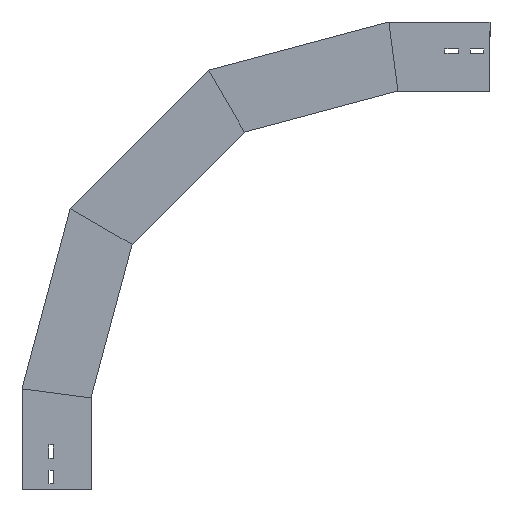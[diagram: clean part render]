
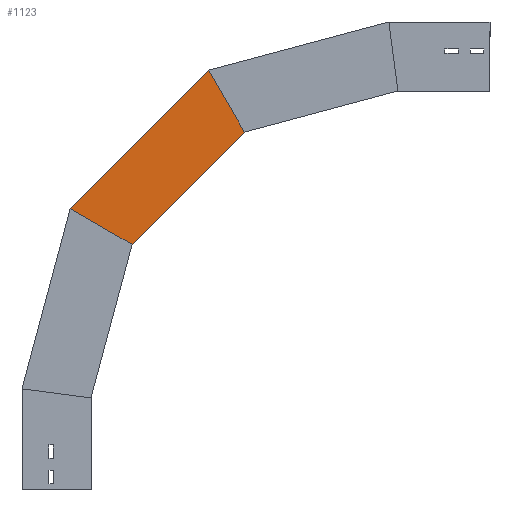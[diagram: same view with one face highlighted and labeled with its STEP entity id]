
A CAD part, left-side view. The second image highlights one B-rep face of the part: STEP entity #1123.
In plain terms, the highlighted planar face has unit normal (-1, 0, 0) as drawn and (1, 0, 0) by its records, which use the part's own axes.
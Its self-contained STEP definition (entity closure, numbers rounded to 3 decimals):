
#20 = EDGE_CURVE ( 'NONE', #504, #715, #886, .T. ) ;
#44 = DIRECTION ( 'NONE',  ( 0., -0.866, -0.5 ) ) ;
#65 = LINE ( 'NONE', #1649, #1326 ) ;
#157 = EDGE_CURVE ( 'NONE', #580, #1192, #65, .T. ) ;
#317 = CARTESIAN_POINT ( 'NONE',  ( 0., -43.517, 376.657 ) ) ;
#328 = CARTESIAN_POINT ( 'NONE',  ( 0., -191.941, 684.18 ) ) ;
#336 = LINE ( 'NONE', #642, #1215 ) ;
#377 = CARTESIAN_POINT ( 'NONE',  ( 0., -250.175, 583.315 ) ) ;
#504 = VERTEX_POINT ( 'NONE', #748 ) ;
#580 = VERTEX_POINT ( 'NONE', #768 ) ;
#642 = CARTESIAN_POINT ( 'NONE',  ( 0., -287.996, 517.807 ) ) ;
#674 = ORIENTED_EDGE ( 'NONE', *, *, #20, .F. ) ;
#715 = VERTEX_POINT ( 'NONE', #377 ) ;
#748 = CARTESIAN_POINT ( 'NONE',  ( 0., -67.034, 400.175 ) ) ;
#761 = AXIS2_PLACEMENT_3D ( 'NONE', #317, #1655, #1498 ) ;
#768 = CARTESIAN_POINT ( 'NONE',  ( 0., 33.831, 458.409 ) ) ;
#794 = VECTOR ( 'NONE', #44, 1000. ) ;
#886 = LINE ( 'NONE', #1621, #1418 ) ;
#943 = EDGE_LOOP ( 'NONE', ( #963, #1269, #674, #1194 ) ) ;
#952 = DIRECTION ( 'NONE',  ( 0., -0.707, 0.707 ) ) ;
#963 = ORIENTED_EDGE ( 'NONE', *, *, #157, .T. ) ;
#1123 = ADVANCED_FACE ( 'NONE', ( #1476 ), #1788, .T. ) ;
#1167 = EDGE_CURVE ( 'NONE', #580, #504, #1776, .T. ) ;
#1192 = VERTEX_POINT ( 'NONE', #328 ) ;
#1194 = ORIENTED_EDGE ( 'NONE', *, *, #1167, .F. ) ;
#1215 = VECTOR ( 'NONE', #1827, 1000. ) ;
#1269 = ORIENTED_EDGE ( 'NONE', *, *, #1864, .T. ) ;
#1294 = DIRECTION ( 'NONE',  ( 0., -0.707, 0.707 ) ) ;
#1321 = CARTESIAN_POINT ( 'NONE',  ( 0., -128.762, 364.536 ) ) ;
#1326 = VECTOR ( 'NONE', #952, 1000. ) ;
#1418 = VECTOR ( 'NONE', #1294, 1000. ) ;
#1476 = FACE_OUTER_BOUND ( 'NONE', #943, .T. ) ;
#1498 = DIRECTION ( 'NONE',  ( 0., 0., -1. ) ) ;
#1621 = CARTESIAN_POINT ( 'NONE',  ( 0., -43.517, 376.657 ) ) ;
#1649 = CARTESIAN_POINT ( 'NONE',  ( 0., 36.033, 456.207 ) ) ;
#1655 = DIRECTION ( 'NONE',  ( 1., 0., 0. ) ) ;
#1776 = LINE ( 'NONE', #1321, #794 ) ;
#1788 = PLANE ( 'NONE',  #761 ) ;
#1827 = DIRECTION ( 'NONE',  ( 0., -0.5, -0.866 ) ) ;
#1864 = EDGE_CURVE ( 'NONE', #1192, #715, #336, .T. ) ;
